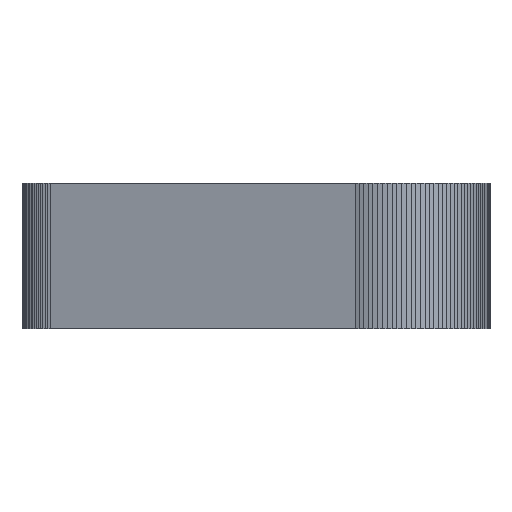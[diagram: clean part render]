
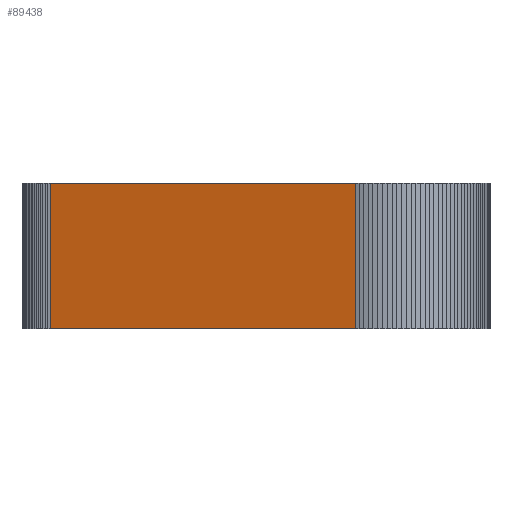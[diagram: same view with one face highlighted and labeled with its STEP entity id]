
A CAD part, left-side view. The second image highlights one B-rep face of the part: STEP entity #89438.
In plain terms, the highlighted planar face has unit normal (-0.959, 0.284, 0).
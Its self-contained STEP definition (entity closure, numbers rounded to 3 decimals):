
#832 = PLANE('',#833);
#833 = AXIS2_PLACEMENT_3D('',#834,#835,#836);
#834 = CARTESIAN_POINT('',(-78.447,4.603,50.));
#835 = DIRECTION('',(0.,0.,1.));
#836 = DIRECTION('',(1.,0.,-0.));
#3734 = VERTEX_POINT('',#3735);
#3735 = CARTESIAN_POINT('',(-49.009,136.268,50.));
#3749 = PLANE('',#3750);
#3750 = AXIS2_PLACEMENT_3D('',#3751,#3752,#3753);
#3751 = CARTESIAN_POINT('',(-48.958,136.487,
    24.779));
#3752 = DIRECTION('',(-0.973,0.23,-0.));
#3753 = DIRECTION('',(-0.23,-0.973,0.));
#3761 = EDGE_CURVE('',#3734,#3762,#3764,.T.);
#3762 = VERTEX_POINT('',#3763);
#3763 = CARTESIAN_POINT('',(-80.106,31.264,50.));
#3764 = SURFACE_CURVE('',#3765,(#3769,#3776),.PCURVE_S1.);
#3765 = LINE('',#3766,#3767);
#3766 = CARTESIAN_POINT('',(-49.009,136.268,50.));
#3767 = VECTOR('',#3768,1.);
#3768 = DIRECTION('',(-0.284,-0.959,0.));
#3769 = PCURVE('',#832,#3770);
#3770 = DEFINITIONAL_REPRESENTATION('',(#3771),#3775);
#3771 = LINE('',#3772,#3773);
#3772 = CARTESIAN_POINT('',(29.438,131.665));
#3773 = VECTOR('',#3774,1.);
#3774 = DIRECTION('',(-0.284,-0.959));
#3775 = ( GEOMETRIC_REPRESENTATION_CONTEXT(2) 
PARAMETRIC_REPRESENTATION_CONTEXT() REPRESENTATION_CONTEXT('2D SPACE',''
  ) );
#3776 = PCURVE('',#3777,#3782);
#3777 = PLANE('',#3778);
#3778 = AXIS2_PLACEMENT_3D('',#3779,#3780,#3781);
#3779 = CARTESIAN_POINT('',(-67.335,74.387,
    15.219));
#3780 = DIRECTION('',(-0.959,0.284,-0.));
#3781 = DIRECTION('',(-0.284,-0.959,0.));
#3782 = DEFINITIONAL_REPRESENTATION('',(#3783),#3787);
#3783 = LINE('',#3784,#3785);
#3784 = CARTESIAN_POINT('',(-64.537,34.781));
#3785 = VECTOR('',#3786,1.);
#3786 = DIRECTION('',(1.,0.));
#3787 = ( GEOMETRIC_REPRESENTATION_CONTEXT(2) 
PARAMETRIC_REPRESENTATION_CONTEXT() REPRESENTATION_CONTEXT('2D SPACE',''
  ) );
#3805 = PLANE('',#3806);
#3806 = AXIS2_PLACEMENT_3D('',#3807,#3808,#3809);
#3807 = CARTESIAN_POINT('',(-80.521,30.358,
    24.671));
#3808 = DIRECTION('',(-0.909,0.417,-0.));
#3809 = DIRECTION('',(-0.417,-0.909,0.));
#66744 = PLANE('',#66745);
#66745 = AXIS2_PLACEMENT_3D('',#66746,#66747,#66748);
#66746 = CARTESIAN_POINT('',(-25.781,77.775,
    0.));
#66747 = DIRECTION('',(-0.,-0.,-1.));
#66748 = DIRECTION('',(-1.,0.,0.));
#68601 = VERTEX_POINT('',#68602);
#68602 = CARTESIAN_POINT('',(-80.106,31.264,
    0.));
#68623 = EDGE_CURVE('',#68624,#68601,#68626,.T.);
#68624 = VERTEX_POINT('',#68625);
#68625 = CARTESIAN_POINT('',(-49.009,136.268,
    0.));
#68626 = SURFACE_CURVE('',#68627,(#68631,#68638),.PCURVE_S1.);
#68627 = LINE('',#68628,#68629);
#68628 = CARTESIAN_POINT('',(-49.009,136.268,
    0.));
#68629 = VECTOR('',#68630,1.);
#68630 = DIRECTION('',(-0.284,-0.959,0.));
#68631 = PCURVE('',#66744,#68632);
#68632 = DEFINITIONAL_REPRESENTATION('',(#68633),#68637);
#68633 = LINE('',#68634,#68635);
#68634 = CARTESIAN_POINT('',(23.229,58.493));
#68635 = VECTOR('',#68636,1.);
#68636 = DIRECTION('',(0.284,-0.959));
#68637 = ( GEOMETRIC_REPRESENTATION_CONTEXT(2) 
PARAMETRIC_REPRESENTATION_CONTEXT() REPRESENTATION_CONTEXT('2D SPACE',''
  ) );
#68638 = PCURVE('',#3777,#68639);
#68639 = DEFINITIONAL_REPRESENTATION('',(#68640),#68644);
#68640 = LINE('',#68641,#68642);
#68641 = CARTESIAN_POINT('',(-64.537,-15.219));
#68642 = VECTOR('',#68643,1.);
#68643 = DIRECTION('',(1.,0.));
#68644 = ( GEOMETRIC_REPRESENTATION_CONTEXT(2) 
PARAMETRIC_REPRESENTATION_CONTEXT() REPRESENTATION_CONTEXT('2D SPACE',''
  ) );
#89417 = EDGE_CURVE('',#3762,#68601,#89418,.T.);
#89418 = SURFACE_CURVE('',#89419,(#89423,#89430),.PCURVE_S1.);
#89419 = LINE('',#89420,#89421);
#89420 = CARTESIAN_POINT('',(-80.106,31.264,50.));
#89421 = VECTOR('',#89422,1.);
#89422 = DIRECTION('',(0.,0.,-1.));
#89423 = PCURVE('',#3805,#89424);
#89424 = DEFINITIONAL_REPRESENTATION('',(#89425),#89429);
#89425 = LINE('',#89426,#89427);
#89426 = CARTESIAN_POINT('',(-0.997,25.329));
#89427 = VECTOR('',#89428,1.);
#89428 = DIRECTION('',(-0.,-1.));
#89429 = ( GEOMETRIC_REPRESENTATION_CONTEXT(2) 
PARAMETRIC_REPRESENTATION_CONTEXT() REPRESENTATION_CONTEXT('2D SPACE',''
  ) );
#89430 = PCURVE('',#3777,#89431);
#89431 = DEFINITIONAL_REPRESENTATION('',(#89432),#89436);
#89432 = LINE('',#89433,#89434);
#89433 = CARTESIAN_POINT('',(44.975,34.781));
#89434 = VECTOR('',#89435,1.);
#89435 = DIRECTION('',(-0.,-1.));
#89436 = ( GEOMETRIC_REPRESENTATION_CONTEXT(2) 
PARAMETRIC_REPRESENTATION_CONTEXT() REPRESENTATION_CONTEXT('2D SPACE',''
  ) );
#89438 = ADVANCED_FACE('',(#89439),#3777,.T.);
#89439 = FACE_BOUND('',#89440,.T.);
#89440 = EDGE_LOOP('',(#89441,#89442,#89443,#89464));
#89441 = ORIENTED_EDGE('',*,*,#89417,.F.);
#89442 = ORIENTED_EDGE('',*,*,#3761,.F.);
#89443 = ORIENTED_EDGE('',*,*,#89444,.F.);
#89444 = EDGE_CURVE('',#68624,#3734,#89445,.T.);
#89445 = SURFACE_CURVE('',#89446,(#89450,#89457),.PCURVE_S1.);
#89446 = LINE('',#89447,#89448);
#89447 = CARTESIAN_POINT('',(-49.009,136.268,
    0.));
#89448 = VECTOR('',#89449,1.);
#89449 = DIRECTION('',(0.,0.,1.));
#89450 = PCURVE('',#3777,#89451);
#89451 = DEFINITIONAL_REPRESENTATION('',(#89452),#89456);
#89452 = LINE('',#89453,#89454);
#89453 = CARTESIAN_POINT('',(-64.537,-15.219));
#89454 = VECTOR('',#89455,1.);
#89455 = DIRECTION('',(0.,1.));
#89456 = ( GEOMETRIC_REPRESENTATION_CONTEXT(2) 
PARAMETRIC_REPRESENTATION_CONTEXT() REPRESENTATION_CONTEXT('2D SPACE',''
  ) );
#89457 = PCURVE('',#3749,#89458);
#89458 = DEFINITIONAL_REPRESENTATION('',(#89459),#89463);
#89459 = LINE('',#89460,#89461);
#89460 = CARTESIAN_POINT('',(0.225,-24.779));
#89461 = VECTOR('',#89462,1.);
#89462 = DIRECTION('',(0.,1.));
#89463 = ( GEOMETRIC_REPRESENTATION_CONTEXT(2) 
PARAMETRIC_REPRESENTATION_CONTEXT() REPRESENTATION_CONTEXT('2D SPACE',''
  ) );
#89464 = ORIENTED_EDGE('',*,*,#68623,.T.);
